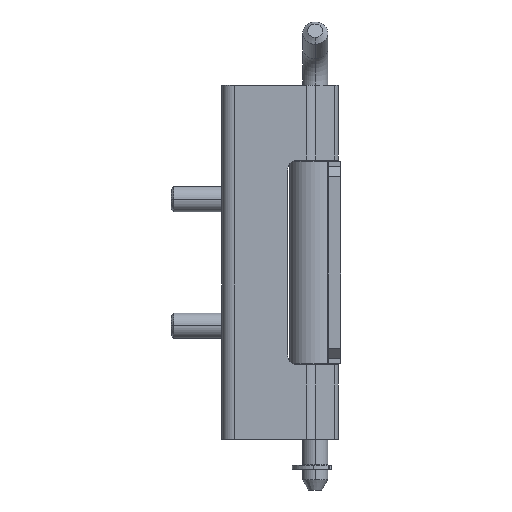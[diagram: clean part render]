
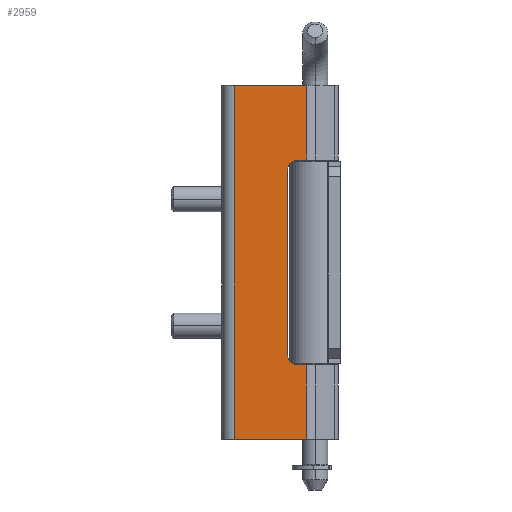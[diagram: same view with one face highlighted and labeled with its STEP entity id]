
A CAD part, left-side view. The second image highlights one B-rep face of the part: STEP entity #2959.
In plain terms, the highlighted planar face has unit normal (-1, 0, 0).
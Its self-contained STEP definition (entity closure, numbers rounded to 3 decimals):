
#1565 = FACE_OUTER_BOUND ( 'NONE', #3044, .T. ) ;
#1568 = CARTESIAN_POINT ( 'NONE',  ( -16.949, -31.506, 53.25 ) ) ;
#1600 = DIRECTION ( 'NONE',  ( 1., 0., 0. ) ) ;
#1603 = CARTESIAN_POINT ( 'NONE',  ( -16.949, -31.506, 16.75 ) ) ;
#1605 = CARTESIAN_POINT ( 'NONE',  ( -16.949, -29.506, 53.25 ) ) ;
#1607 = PLANE ( 'NONE',  #1613 ) ;
#1608 = DIRECTION ( 'NONE',  ( 0., 1., 0. ) ) ;
#1609 = DIRECTION ( 'NONE',  ( 0., 1., 0. ) ) ;
#1610 = DIRECTION ( 'NONE',  ( 1., 0., 0. ) ) ;
#1611 = AXIS2_PLACEMENT_3D ( 'NONE', #1568, #1610, #1609 ) ;
#1612 = CARTESIAN_POINT ( 'NONE',  ( -16.949, -18.506, 70. ) ) ;
#1613 = AXIS2_PLACEMENT_3D ( 'NONE', #1612, #1628, #1608 ) ;
#1622 = CIRCLE ( 'NONE', #1611, 2. ) ;
#1623 = CARTESIAN_POINT ( 'NONE',  ( -16.949, -29.506, 70. ) ) ;
#1624 = LINE ( 'NONE', #1623, #1655 ) ;
#1628 = DIRECTION ( 'NONE',  ( 1., 0., 0. ) ) ;
#1654 = DIRECTION ( 'NONE',  ( 0., 0., 1. ) ) ;
#1655 = VECTOR ( 'NONE', #1654, 1000. ) ;
#1659 = DIRECTION ( 'NONE',  ( 0., 1., 0. ) ) ;
#1660 = AXIS2_PLACEMENT_3D ( 'NONE', #1603, #1600, #1659 ) ;
#1661 = CIRCLE ( 'NONE', #1660, 2. ) ;
#1714 = CARTESIAN_POINT ( 'NONE',  ( -16.949, -33.299, 14.75 ) ) ;
#1716 = CARTESIAN_POINT ( 'NONE',  ( -16.949, -31.506, 14.75 ) ) ;
#1721 = CARTESIAN_POINT ( 'NONE',  ( -16.949, -19.006, 70. ) ) ;
#1744 = DIRECTION ( 'NONE',  ( 0., -1., 0. ) ) ;
#1745 = VECTOR ( 'NONE', #1744, 1000. ) ;
#1746 = CARTESIAN_POINT ( 'NONE',  ( -16.949, -18.506, 0. ) ) ;
#1747 = LINE ( 'NONE', #1746, #1745 ) ;
#1796 = CARTESIAN_POINT ( 'NONE',  ( -16.949, -31.506, 55.25 ) ) ;
#1803 = CARTESIAN_POINT ( 'NONE',  ( -16.949, -33.299, 0. ) ) ;
#1844 = CARTESIAN_POINT ( 'NONE',  ( -16.949, -33.299, 55.25 ) ) ;
#1874 = DIRECTION ( 'NONE',  ( 0., 1., 0. ) ) ;
#1875 = VECTOR ( 'NONE', #1874, 1000. ) ;
#1877 = CARTESIAN_POINT ( 'NONE',  ( -16.949, -18.506, 14.75 ) ) ;
#1879 = DIRECTION ( 'NONE',  ( 0., 0., -1. ) ) ;
#1880 = VECTOR ( 'NONE', #1879, 1000. ) ;
#1881 = CARTESIAN_POINT ( 'NONE',  ( -16.949, -33.299, 70. ) ) ;
#1882 = LINE ( 'NONE', #1881, #1880 ) ;
#1883 = DIRECTION ( 'NONE',  ( 0., 0., -1. ) ) ;
#1884 = VECTOR ( 'NONE', #1883, 1000. ) ;
#1885 = CARTESIAN_POINT ( 'NONE',  ( -16.949, -33.299, 70. ) ) ;
#1886 = CARTESIAN_POINT ( 'NONE',  ( -16.949, -33.299, 70. ) ) ;
#1887 = LINE ( 'NONE', #1885, #1884 ) ;
#1891 = LINE ( 'NONE', #1877, #1875 ) ;
#1909 = DIRECTION ( 'NONE',  ( 0., -1., 0. ) ) ;
#1910 = VECTOR ( 'NONE', #1909, 1000. ) ;
#1921 = CARTESIAN_POINT ( 'NONE',  ( -16.949, -18.506, 55.25 ) ) ;
#1922 = LINE ( 'NONE', #1921, #1910 ) ;
#1953 = DIRECTION ( 'NONE',  ( 0., -1., 0. ) ) ;
#1954 = VECTOR ( 'NONE', #1953, 1000. ) ;
#1955 = CARTESIAN_POINT ( 'NONE',  ( -16.949, -18.506, 70. ) ) ;
#1956 = LINE ( 'NONE', #1955, #1954 ) ;
#1964 = DIRECTION ( 'NONE',  ( 0., 0., -1. ) ) ;
#1965 = VECTOR ( 'NONE', #1964, 1000. ) ;
#1970 = LINE ( 'NONE', #1974, #1965 ) ;
#1971 = CARTESIAN_POINT ( 'NONE',  ( -16.949, -29.506, 16.75 ) ) ;
#1974 = CARTESIAN_POINT ( 'NONE',  ( -16.949, -19.006, 70. ) ) ;
#1984 = CARTESIAN_POINT ( 'NONE',  ( -16.949, -19.006, 0. ) ) ;
#2953 = EDGE_CURVE ( 'NONE', #2963, #3022, #1622, .T. ) ;
#2959 = ADVANCED_FACE ( 'NONE', ( #1565 ), #1607, .F. ) ;
#2961 = ORIENTED_EDGE ( 'NONE', *, *, #3065, .T. ) ;
#2962 = EDGE_CURVE ( 'NONE', #3003, #3152, #1661, .T. ) ;
#2963 = VERTEX_POINT ( 'NONE', #1605 ) ;
#2964 = ORIENTED_EDGE ( 'NONE', *, *, #2962, .T. ) ;
#2965 = EDGE_CURVE ( 'NONE', #3152, #2963, #1624, .T. ) ;
#2990 = VERTEX_POINT ( 'NONE', #1721 ) ;
#3000 = ORIENTED_EDGE ( 'NONE', *, *, #2953, .T. ) ;
#3002 = VERTEX_POINT ( 'NONE', #1714 ) ;
#3003 = VERTEX_POINT ( 'NONE', #1716 ) ;
#3004 = EDGE_CURVE ( 'NONE', #3130, #3047, #1747, .T. ) ;
#3022 = VERTEX_POINT ( 'NONE', #1796 ) ;
#3038 = ORIENTED_EDGE ( 'NONE', *, *, #3004, .T. ) ;
#3044 = EDGE_LOOP ( 'NONE', ( #3048, #3045, #3119, #3134, #3038, #3137, #2961, #2964, #3046, #3000 ) ) ;
#3045 = ORIENTED_EDGE ( 'NONE', *, *, #3062, .F. ) ;
#3046 = ORIENTED_EDGE ( 'NONE', *, *, #2965, .T. ) ;
#3047 = VERTEX_POINT ( 'NONE', #1803 ) ;
#3048 = ORIENTED_EDGE ( 'NONE', *, *, #3079, .T. ) ;
#3058 = VERTEX_POINT ( 'NONE', #1844 ) ;
#3062 = EDGE_CURVE ( 'NONE', #3063, #3058, #1887, .T. ) ;
#3063 = VERTEX_POINT ( 'NONE', #1886 ) ;
#3064 = EDGE_CURVE ( 'NONE', #3002, #3047, #1882, .T. ) ;
#3065 = EDGE_CURVE ( 'NONE', #3002, #3003, #1891, .T. ) ;
#3079 = EDGE_CURVE ( 'NONE', #3022, #3058, #1922, .T. ) ;
#3119 = ORIENTED_EDGE ( 'NONE', *, *, #3138, .F. ) ;
#3130 = VERTEX_POINT ( 'NONE', #1984 ) ;
#3134 = ORIENTED_EDGE ( 'NONE', *, *, #3135, .T. ) ;
#3135 = EDGE_CURVE ( 'NONE', #2990, #3130, #1970, .T. ) ;
#3137 = ORIENTED_EDGE ( 'NONE', *, *, #3064, .F. ) ;
#3138 = EDGE_CURVE ( 'NONE', #2990, #3063, #1956, .T. ) ;
#3152 = VERTEX_POINT ( 'NONE', #1971 ) ;
